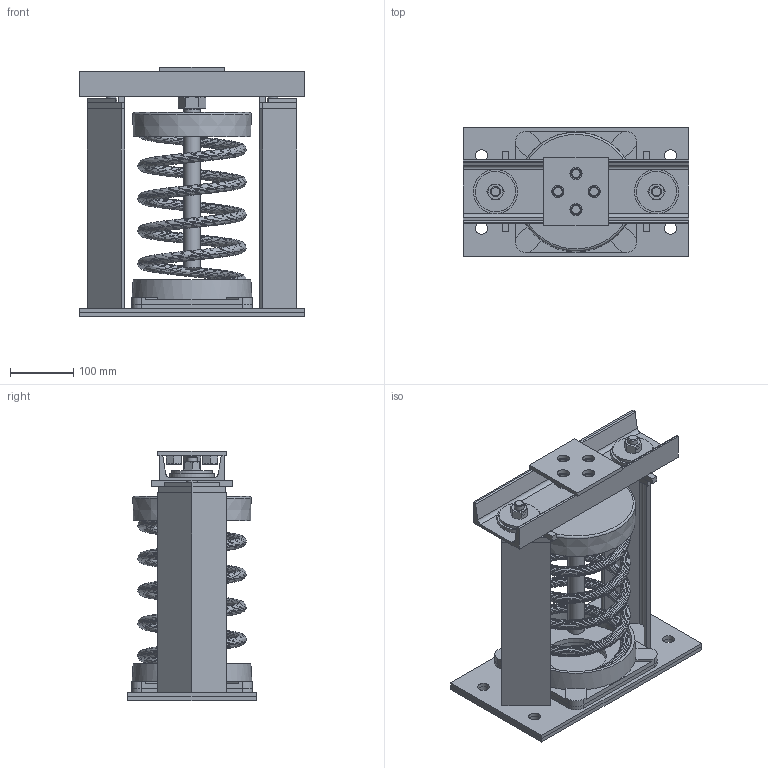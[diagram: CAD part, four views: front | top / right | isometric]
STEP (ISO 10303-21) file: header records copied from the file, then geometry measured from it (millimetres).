
FILE_DESCRIPTION(/* description */ (''),/* implementation_level */ '2;1');
FILE_NAME(/* name */ '\\Mleuckthor2\cad-proe_solids\WEBSITE FILES 05.22.13\STEP\SLR 100 SERIES\SLR-182.stp',/* time_stamp */ '2016-03-31T09:26:06-04:00',/* author */ ('rramoutar'),/* organization */ ('Mason Industries Inc.'),/* preprocessor_version */ 'ST-DEVELOPER v15.6',/* originating_system */ 'Autodesk Inventor 2015',/* authorisation */ '');
FILE_SCHEMA (('CONFIG_CONTROL_DESIGN'));
Length unit declared in the file: inch
Products named in the file (1): SLR-182 PER A-28484-1
Bounding box: 355.6 x 203.2 x 393.7 mm (x, y, z)
Volume: 3512403.7 mm3; surface area: 1288494.3 mm2
Topology: 31 solids, 31 shells, 534 faces, 1232 edges, 774 vertices
Faces by surface type: plane 310, cone 122, cylinder 76, bspline 22, torus 4
Full cylindrical faces by diameter (mm): 9.525 x2, 11.112 x1, 12.7 x4, 13.386 x6, 15.875 x2, 16.307 x2, 17.462 x2, 19.05 x12, 20.637 x2, 20.93 x1, 22.225 x1, 23.825 x2, 25.4 x1, 26.67 x1, 34.925 x2, 38.1 x1, 41.275 x4, 63.5 x2, 69.85 x2, 95.25 x2, 176.212 x2
Entity records: 26210 total; most frequent: CARTESIAN_POINT 14513, ORIENTED_EDGE 2246, DIRECTION 2186, EDGE_CURVE 1123, AXIS2_PLACEMENT_3D 826, VERTEX_POINT 743, EDGE_LOOP 690, STYLED_ITEM 565
